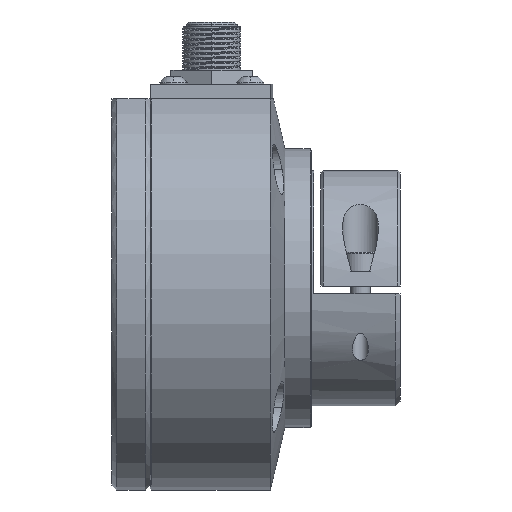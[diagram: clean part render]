
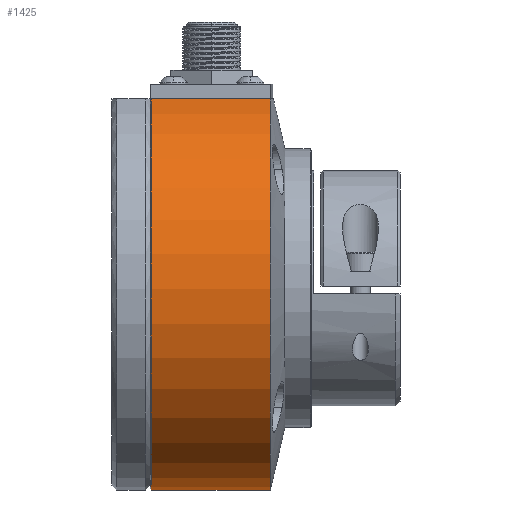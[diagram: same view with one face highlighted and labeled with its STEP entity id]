
A CAD part, front view. The second image highlights one B-rep face of the part: STEP entity #1425.
In plain terms, the highlighted cylindrical face has radius 42 mm (diameter 84 mm), a partial arc.
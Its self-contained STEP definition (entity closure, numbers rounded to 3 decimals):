
#8 = DIRECTION ( 'NONE',  ( 0., 1., 0. ) ) ;
#19 = CIRCLE ( 'NONE', #8953, 42. ) ;
#77 = DIRECTION ( 'NONE',  ( 1., 0., 0. ) ) ;
#1425 = ADVANCED_FACE ( 'NONE', ( #4022 ), #9934, .T. ) ;
#1471 = ORIENTED_EDGE ( 'NONE', *, *, #5808, .T. ) ;
#1766 = CARTESIAN_POINT ( 'NONE',  ( -25., 0., 0. ) ) ;
#1909 = VERTEX_POINT ( 'NONE', #8985 ) ;
#1946 = LINE ( 'NONE', #5134, #11282 ) ;
#2024 = DIRECTION ( 'NONE',  ( -1., 0., 0. ) ) ;
#2915 = CARTESIAN_POINT ( 'NONE',  ( -25., 0., 0. ) ) ;
#3059 = ORIENTED_EDGE ( 'NONE', *, *, #9293, .F. ) ;
#3079 = CARTESIAN_POINT ( 'NONE',  ( -0.25, 0., 0. ) ) ;
#3448 = DIRECTION ( 'NONE',  ( 0., 1., 0. ) ) ;
#3473 = EDGE_LOOP ( 'NONE', ( #3059, #12911, #7454, #8237, #6601, #1471 ) ) ;
#3708 = CIRCLE ( 'NONE', #6265, 42. ) ;
#3743 = LINE ( 'NONE', #10802, #3911 ) ;
#3911 = VECTOR ( 'NONE', #7010, 1000. ) ;
#4022 = FACE_OUTER_BOUND ( 'NONE', #3473, .T. ) ;
#4051 = AXIS2_PLACEMENT_3D ( 'NONE', #2915, #6927, #9964 ) ;
#4215 = DIRECTION ( 'NONE',  ( -1., 0., 0. ) ) ;
#4358 = CARTESIAN_POINT ( 'NONE',  ( -25., 39.4, 14.548 ) ) ;
#4369 = EDGE_CURVE ( 'NONE', #8873, #12377, #8763, .T. ) ;
#4668 = VERTEX_POINT ( 'NONE', #10467 ) ;
#4755 = DIRECTION ( 'NONE',  ( 0., 1., 0. ) ) ;
#4849 = EDGE_CURVE ( 'NONE', #8873, #6931, #1946, .T. ) ;
#5134 = CARTESIAN_POINT ( 'NONE',  ( 0., 39.4, 14.548 ) ) ;
#5339 = CARTESIAN_POINT ( 'NONE',  ( -25., -42., 0. ) ) ;
#5808 = EDGE_CURVE ( 'NONE', #12377, #1909, #9362, .T. ) ;
#5957 = CARTESIAN_POINT ( 'NONE',  ( -0.25, 39.4, 14.548 ) ) ;
#6265 = AXIS2_PLACEMENT_3D ( 'NONE', #3079, #4215, #3448 ) ;
#6601 = ORIENTED_EDGE ( 'NONE', *, *, #4369, .T. ) ;
#6855 = AXIS2_PLACEMENT_3D ( 'NONE', #1766, #6955, #4755 ) ;
#6927 = DIRECTION ( 'NONE',  ( 1., 0., 0. ) ) ;
#6931 = VERTEX_POINT ( 'NONE', #5957 ) ;
#6955 = DIRECTION ( 'NONE',  ( 1., 0., 0. ) ) ;
#7010 = DIRECTION ( 'NONE',  ( -1., 0., 0. ) ) ;
#7090 = CARTESIAN_POINT ( 'NONE',  ( 0., 0., 0. ) ) ;
#7454 = ORIENTED_EDGE ( 'NONE', *, *, #9506, .T. ) ;
#7559 = EDGE_CURVE ( 'NONE', #13162, #4668, #19, .T. ) ;
#8008 = AXIS2_PLACEMENT_3D ( 'NONE', #7090, #77, #8 ) ;
#8237 = ORIENTED_EDGE ( 'NONE', *, *, #4849, .F. ) ;
#8763 = CIRCLE ( 'NONE', #6855, 42. ) ;
#8873 = VERTEX_POINT ( 'NONE', #4358 ) ;
#8953 = AXIS2_PLACEMENT_3D ( 'NONE', #13132, #2024, #9346 ) ;
#8985 = CARTESIAN_POINT ( 'NONE',  ( -25., 39.4, -14.548 ) ) ;
#9293 = EDGE_CURVE ( 'NONE', #13162, #1909, #3743, .T. ) ;
#9346 = DIRECTION ( 'NONE',  ( 0., 1., 0. ) ) ;
#9362 = CIRCLE ( 'NONE', #4051, 42. ) ;
#9506 = EDGE_CURVE ( 'NONE', #4668, #6931, #3708, .T. ) ;
#9887 = DIRECTION ( 'NONE',  ( 1., 0., 0. ) ) ;
#9934 = CYLINDRICAL_SURFACE ( 'NONE', #8008, 42. ) ;
#9964 = DIRECTION ( 'NONE',  ( 0., 1., 0. ) ) ;
#10467 = CARTESIAN_POINT ( 'NONE',  ( -0.25, -42., 0. ) ) ;
#10802 = CARTESIAN_POINT ( 'NONE',  ( 0., 39.4, -14.548 ) ) ;
#11241 = CARTESIAN_POINT ( 'NONE',  ( -0.25, 39.4, -14.548 ) ) ;
#11282 = VECTOR ( 'NONE', #9887, 1000. ) ;
#12377 = VERTEX_POINT ( 'NONE', #5339 ) ;
#12911 = ORIENTED_EDGE ( 'NONE', *, *, #7559, .T. ) ;
#13132 = CARTESIAN_POINT ( 'NONE',  ( -0.25, 0., 0. ) ) ;
#13162 = VERTEX_POINT ( 'NONE', #11241 ) ;
